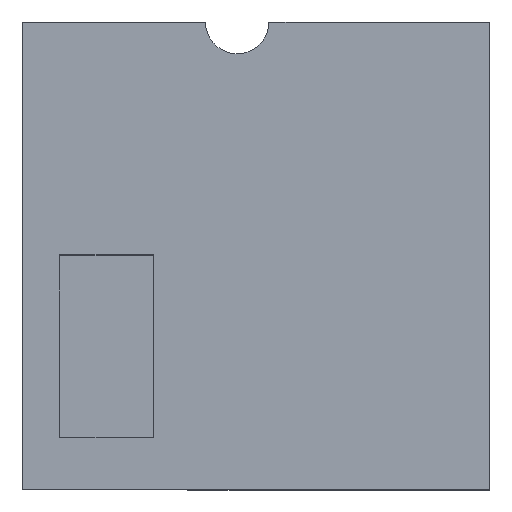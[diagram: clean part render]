
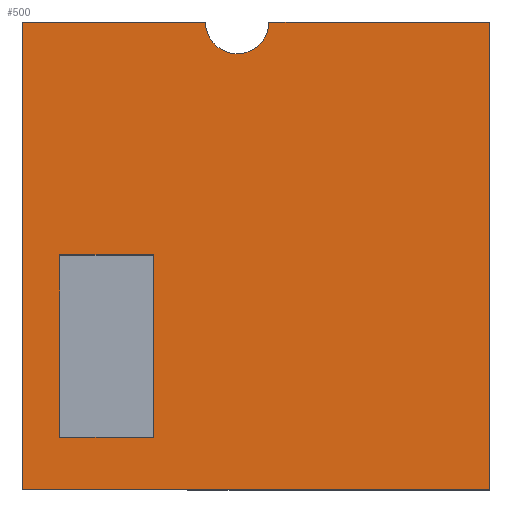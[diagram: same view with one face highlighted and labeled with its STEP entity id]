
A CAD part, top view. The second image highlights one B-rep face of the part: STEP entity #500.
In plain terms, the highlighted planar face has unit normal (0, 0, 1).
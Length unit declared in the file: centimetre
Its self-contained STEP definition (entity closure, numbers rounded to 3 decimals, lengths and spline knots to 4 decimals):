
#3 = CARTESIAN_POINT ( 'NONE',  ( 1000., 1000., 1000. ) ) ;
#8 = DIRECTION ( 'NONE',  ( 1., 0., 0. ) ) ;
#14 = EDGE_CURVE ( 'NONE', #337, #423, #387, .T. ) ;
#44 = EDGE_CURVE ( 'NONE', #264, #121, #595, .T. ) ;
#46 = VECTOR ( 'NONE', #125, 100. ) ;
#53 = VECTOR ( 'NONE', #144, 100. ) ;
#54 = EDGE_CURVE ( 'NONE', #337, #193, #410, .T. ) ;
#58 = CARTESIAN_POINT ( 'NONE',  ( 0., 0., 1000. ) ) ;
#82 = DIRECTION ( 'NONE',  ( 1., 0., 0. ) ) ;
#83 = CARTESIAN_POINT ( 'NONE',  ( 280.7637, 110.9542, 1000. ) ) ;
#87 = LINE ( 'NONE', #174, #229 ) ;
#91 = EDGE_CURVE ( 'NONE', #121, #193, #590, .T. ) ;
#92 = CARTESIAN_POINT ( 'NONE',  ( 280.7637, 110.9542, 1000. ) ) ;
#96 = ORIENTED_EDGE ( 'NONE', *, *, #397, .F. ) ;
#101 = CARTESIAN_POINT ( 'NONE',  ( 527.724, 1000., 1000. ) ) ;
#106 = PLANE ( 'NONE',  #130 ) ;
#114 = CARTESIAN_POINT ( 'NONE',  ( 280.7637, 501.4513, 1000. ) ) ;
#118 = LINE ( 'NONE', #539, #606 ) ;
#121 = VERTEX_POINT ( 'NONE', #3 ) ;
#125 = DIRECTION ( 'NONE',  ( 0., -1., 0. ) ) ;
#129 = LINE ( 'NONE', #83, #550 ) ;
#130 = AXIS2_PLACEMENT_3D ( 'NONE', #58, #464, #8 ) ;
#131 = CARTESIAN_POINT ( 'NONE',  ( 0., 1000., 1000. ) ) ;
#132 = ORIENTED_EDGE ( 'NONE', *, *, #54, .F. ) ;
#144 = DIRECTION ( 'NONE',  ( 0., 1., 0. ) ) ;
#163 = EDGE_LOOP ( 'NONE', ( #361, #644, #253, #96 ) ) ;
#168 = ORIENTED_EDGE ( 'NONE', *, *, #215, .T. ) ;
#169 = CARTESIAN_POINT ( 'NONE',  ( 79.6901, 110.9542, 1000. ) ) ;
#174 = CARTESIAN_POINT ( 'NONE',  ( 79.6901, 110.9542, 1000. ) ) ;
#178 = VERTEX_POINT ( 'NONE', #92 ) ;
#193 = VERTEX_POINT ( 'NONE', #101 ) ;
#203 = ORIENTED_EDGE ( 'NONE', *, *, #91, .T. ) ;
#204 = AXIS2_PLACEMENT_3D ( 'NONE', #234, #336, #290 ) ;
#215 = EDGE_CURVE ( 'NONE', #423, #470, #528, .T. ) ;
#224 = CARTESIAN_POINT ( 'NONE',  ( 391.7155, 1000., 1000. ) ) ;
#229 = VECTOR ( 'NONE', #329, 100. ) ;
#234 = CARTESIAN_POINT ( 'NONE',  ( 459.7198, 1000., 1000. ) ) ;
#235 = ORIENTED_EDGE ( 'NONE', *, *, #44, .T. ) ;
#253 = ORIENTED_EDGE ( 'NONE', *, *, #296, .F. ) ;
#255 = VECTOR ( 'NONE', #541, 100. ) ;
#258 = DIRECTION ( 'NONE',  ( -1., 0., 0. ) ) ;
#264 = VERTEX_POINT ( 'NONE', #540 ) ;
#272 = CARTESIAN_POINT ( 'NONE',  ( 79.6901, 110.9542, 1000. ) ) ;
#290 = DIRECTION ( 'NONE',  ( 1., 0., 0. ) ) ;
#296 = EDGE_CURVE ( 'NONE', #178, #593, #129, .T. ) ;
#297 = VECTOR ( 'NONE', #258, 100. ) ;
#307 = ORIENTED_EDGE ( 'NONE', *, *, #400, .T. ) ;
#310 = CARTESIAN_POINT ( 'NONE',  ( 0., 1000., 1000. ) ) ;
#325 = CARTESIAN_POINT ( 'NONE',  ( 1000., 1000., 1000. ) ) ;
#329 = DIRECTION ( 'NONE',  ( 1., 0., 0. ) ) ;
#336 = DIRECTION ( 'NONE',  ( 0., 0., 1. ) ) ;
#337 = VERTEX_POINT ( 'NONE', #224 ) ;
#354 = CARTESIAN_POINT ( 'NONE',  ( 79.6901, 501.4513, 1000. ) ) ;
#356 = EDGE_CURVE ( 'NONE', #593, #529, #373, .T. ) ;
#358 = FACE_BOUND ( 'NONE', #163, .T. ) ;
#361 = ORIENTED_EDGE ( 'NONE', *, *, #402, .F. ) ;
#366 = DIRECTION ( 'NONE',  ( 0., -1., 0. ) ) ;
#373 = LINE ( 'NONE', #431, #297 ) ;
#387 = LINE ( 'NONE', #131, #480 ) ;
#397 = EDGE_CURVE ( 'NONE', #496, #178, #87, .T. ) ;
#400 = EDGE_CURVE ( 'NONE', #470, #264, #118, .T. ) ;
#401 = FACE_OUTER_BOUND ( 'NONE', #614, .T. ) ;
#402 = EDGE_CURVE ( 'NONE', #529, #496, #425, .T. ) ;
#410 = CIRCLE ( 'NONE', #204, 68.0042 ) ;
#423 = VERTEX_POINT ( 'NONE', #310 ) ;
#425 = LINE ( 'NONE', #169, #558 ) ;
#431 = CARTESIAN_POINT ( 'NONE',  ( 79.6901, 501.4513, 1000. ) ) ;
#440 = DIRECTION ( 'NONE',  ( -1., 0., 0. ) ) ;
#464 = DIRECTION ( 'NONE',  ( 0., 0., 1. ) ) ;
#470 = VERTEX_POINT ( 'NONE', #532 ) ;
#471 = ORIENTED_EDGE ( 'NONE', *, *, #14, .T. ) ;
#480 = VECTOR ( 'NONE', #440, 100. ) ;
#496 = VERTEX_POINT ( 'NONE', #272 ) ;
#499 = CARTESIAN_POINT ( 'NONE',  ( 0., 1000., 1000. ) ) ;
#500 = ADVANCED_FACE ( 'NONE', ( #401, #358 ), #106, .T. ) ;
#528 = LINE ( 'NONE', #623, #46 ) ;
#529 = VERTEX_POINT ( 'NONE', #354 ) ;
#532 = CARTESIAN_POINT ( 'NONE',  ( 0., 0., 1000. ) ) ;
#539 = CARTESIAN_POINT ( 'NONE',  ( 0., 0., 1000. ) ) ;
#540 = CARTESIAN_POINT ( 'NONE',  ( 1000., 0., 1000. ) ) ;
#541 = DIRECTION ( 'NONE',  ( -1., 0., 0. ) ) ;
#550 = VECTOR ( 'NONE', #617, 100. ) ;
#558 = VECTOR ( 'NONE', #366, 100. ) ;
#590 = LINE ( 'NONE', #499, #255 ) ;
#593 = VERTEX_POINT ( 'NONE', #114 ) ;
#595 = LINE ( 'NONE', #325, #53 ) ;
#606 = VECTOR ( 'NONE', #82, 100. ) ;
#614 = EDGE_LOOP ( 'NONE', ( #132, #471, #168, #307, #235, #203 ) ) ;
#617 = DIRECTION ( 'NONE',  ( 0., 1., 0. ) ) ;
#623 = CARTESIAN_POINT ( 'NONE',  ( 0., 1000., 1000. ) ) ;
#644 = ORIENTED_EDGE ( 'NONE', *, *, #356, .F. ) ;
